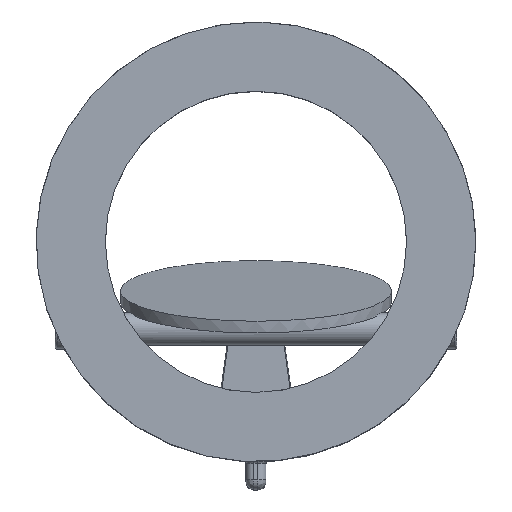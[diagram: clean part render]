
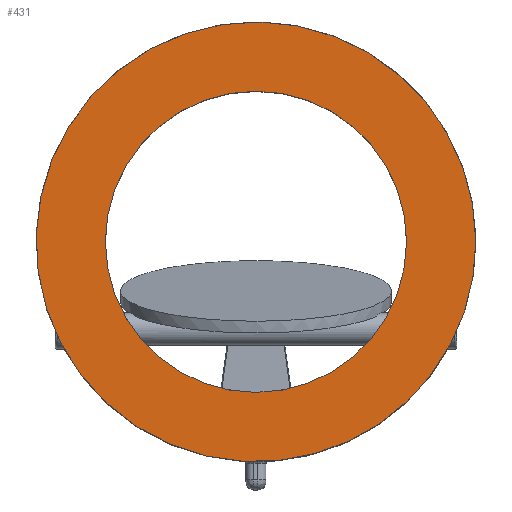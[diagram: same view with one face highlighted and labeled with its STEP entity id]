
A CAD part, top view. The second image highlights one B-rep face of the part: STEP entity #431.
In plain terms, the highlighted planar face has unit normal (0, 0, 1).
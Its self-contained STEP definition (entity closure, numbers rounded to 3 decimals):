
#431 = ADVANCED_FACE( '', ( #1025, #1026 ), #1027, .F. );
#1025 = FACE_OUTER_BOUND( '', #3379, .T. );
#1026 = FACE_BOUND( '', #3380, .T. );
#1027 = PLANE( '', #3381 );
#3379 = EDGE_LOOP( '', ( #10536 ) );
#3380 = EDGE_LOOP( '', ( #10537 ) );
#3381 = AXIS2_PLACEMENT_3D( '', #10538, #10539, #10540 );
#10536 = ORIENTED_EDGE( '', *, *, #12189, .F. );
#10537 = ORIENTED_EDGE( '', *, *, #11878, .F. );
#10538 = CARTESIAN_POINT( '', ( 0., 0., 38. ) );
#10539 = DIRECTION( '', ( 0., 0., -1. ) );
#10540 = DIRECTION( '', ( -1., 0., 0. ) );
#11878 = EDGE_CURVE( '', #12767, #12767, #12768, .T. );
#12189 = EDGE_CURVE( '', #13282, #13282, #13283, .T. );
#12767 = VERTEX_POINT( '', #14493 );
#12768 = CIRCLE( '', #14494, 75. );
#13282 = VERTEX_POINT( '', #16808 );
#13283 = CIRCLE( '', #16809, 109.5 );
#14493 = CARTESIAN_POINT( '', ( 75., 0., 38. ) );
#14494 = AXIS2_PLACEMENT_3D( '', #21856, #21857, #21858 );
#16808 = CARTESIAN_POINT( '', ( 109.5, 0., 38. ) );
#16809 = AXIS2_PLACEMENT_3D( '', #21965, #21966, #21967 );
#21856 = CARTESIAN_POINT( '', ( 0., 0., 38. ) );
#21857 = DIRECTION( '', ( 0., 0., 1. ) );
#21858 = DIRECTION( '', ( 1., 0., 0. ) );
#21965 = CARTESIAN_POINT( '', ( 0., 0., 38. ) );
#21966 = DIRECTION( '', ( 0., 0., -1. ) );
#21967 = DIRECTION( '', ( 1., 0., 0. ) );
